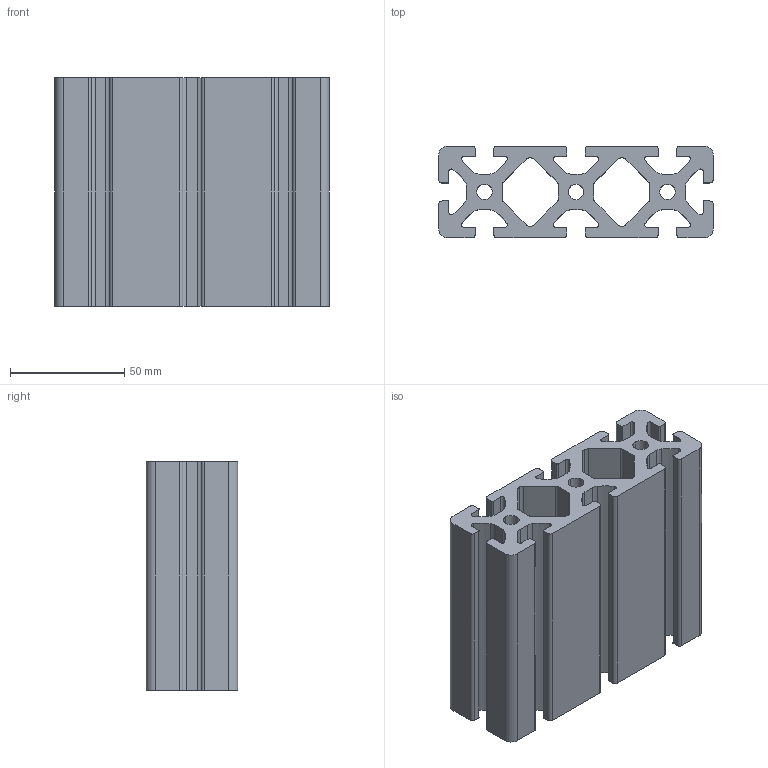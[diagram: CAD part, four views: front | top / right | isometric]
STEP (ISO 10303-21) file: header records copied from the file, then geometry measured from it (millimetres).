
FILE_DESCRIPTION (( 'STEP AP214' ), '1' );
FILE_NAME ('040.0044-Profil-Nut-8-40x120.step', '2023-08-07T10:48:43', ( '' ), ( '' ), 'SwSTEP 2.0', 'SolidWorks 2021', '' );
FILE_SCHEMA (( 'AUTOMOTIVE_DESIGN' ));
Length unit declared in the file: millimetre
Products named in the file (1): 040.0044-Profil-Nut-8-40x120
Bounding box: 120 x 40 x 100 mm (x, y, z)
Volume: 246869.5 mm3; surface area: 89666.2 mm2
Topology: 1 solids, 1 shells, 172 faces, 510 edges, 340 vertices
Faces by surface type: cylinder 106, plane 66
Entity records: 5900 total; most frequent: DIRECTION 1068, CARTESIAN_POINT 1023, ORIENTED_EDGE 1020, EDGE_CURVE 510, AXIS2_PLACEMENT_3D 385, VERTEX_POINT 340, LINE 298, VECTOR 298
